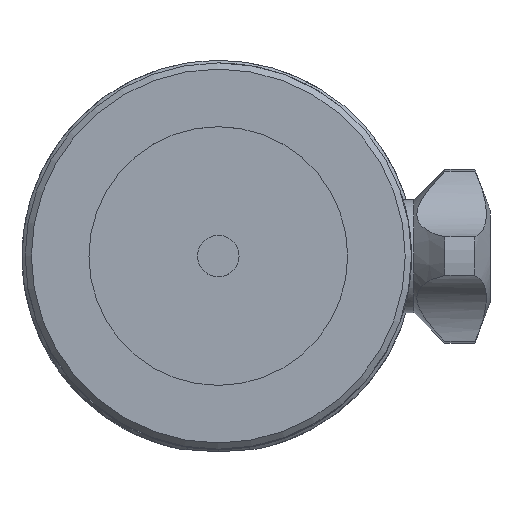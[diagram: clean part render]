
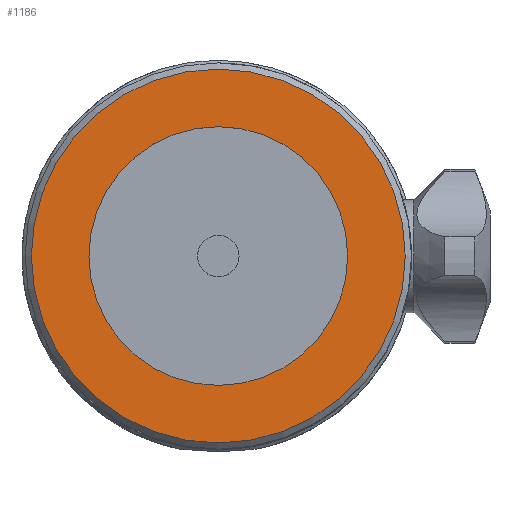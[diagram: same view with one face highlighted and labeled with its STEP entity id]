
A CAD part, top view. The second image highlights one B-rep face of the part: STEP entity #1186.
In plain terms, the highlighted planar face has unit normal (0, 0, 1).
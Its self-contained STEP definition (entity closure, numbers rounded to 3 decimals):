
#846=FACE_BOUND('',#1428,.T.);
#847=FACE_BOUND('',#1429,.T.);
#1186=ADVANCED_FACE('',(#846,#847),#1284,.F.);
#1284=PLANE('',#3052);
#1428=EDGE_LOOP('',(#1682));
#1429=EDGE_LOOP('',(#1683));
#1682=ORIENTED_EDGE('',*,*,#2645,.F.);
#1683=ORIENTED_EDGE('',*,*,#2635,.T.);
#2310=VERTEX_POINT('',#3765);
#2320=VERTEX_POINT('',#3813);
#2635=EDGE_CURVE('',#2310,#2310,#2950,.T.);
#2645=EDGE_CURVE('',#2320,#2320,#2952,.T.);
#2950=CIRCLE('',#3045,20.763);
#2952=CIRCLE('',#3051,30.);
#3045=AXIS2_PLACEMENT_3D('',#3764,#3295,#3296);
#3051=AXIS2_PLACEMENT_3D('',#3812,#3314,#3315);
#3052=AXIS2_PLACEMENT_3D('',#3814,#3316,#3317);
#3295=DIRECTION('',(0.,0.,-1.));
#3296=DIRECTION('',(-1.,0.,0.));
#3314=DIRECTION('',(0.,0.,-1.));
#3315=DIRECTION('',(-1.,0.,0.));
#3316=DIRECTION('',(0.,0.,-1.));
#3317=DIRECTION('',(-1.,0.,0.));
#3764=CARTESIAN_POINT('',(0.,0.,2.7));
#3765=CARTESIAN_POINT('',(-20.763,0.,2.7));
#3812=CARTESIAN_POINT('',(0.,0.,2.7));
#3813=CARTESIAN_POINT('',(-30.,0.,2.7));
#3814=CARTESIAN_POINT('',(20.763,0.,2.7));
